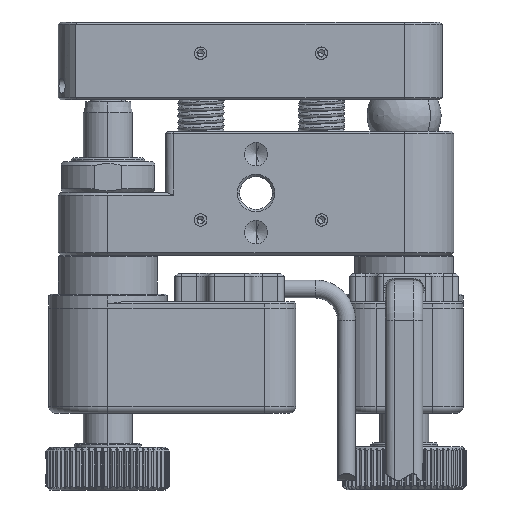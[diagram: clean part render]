
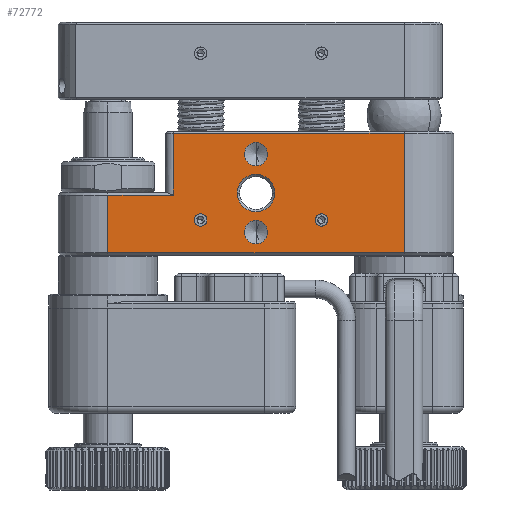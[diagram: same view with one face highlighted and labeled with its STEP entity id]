
A CAD part, left-side view. The second image highlights one B-rep face of the part: STEP entity #72772.
In plain terms, the highlighted planar face has unit normal (-1, 0, 0).
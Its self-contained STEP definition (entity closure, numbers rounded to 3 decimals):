
#1189 = ORIENTED_EDGE ( 'NONE', *, *, #4017, .T. ) ;
#2770 = CIRCLE ( 'NONE', #103500, 0.8 ) ;
#3532 = CARTESIAN_POINT ( 'NONE',  ( -25.4, 7.1, 5.3 ) ) ;
#4017 = EDGE_CURVE ( 'NONE', #76247, #22293, #68589, .T. ) ;
#5971 = AXIS2_PLACEMENT_3D ( 'NONE', #88839, #34053, #97976 ) ;
#6071 = CARTESIAN_POINT ( 'NONE',  ( -25.4, -8.4, 5.3 ) ) ;
#7074 = FACE_BOUND ( 'NONE', #56593, .T. ) ;
#7412 = VERTEX_POINT ( 'NONE', #10812 ) ;
#7661 = DIRECTION ( 'NONE',  ( -1., 0., 0. ) ) ;
#8185 = CARTESIAN_POINT ( 'NONE',  ( -25.4, 10.6, 8. ) ) ;
#8905 = PLANE ( 'NONE',  #106477 ) ;
#8951 = AXIS2_PLACEMENT_3D ( 'NONE', #76104, #21292, #85316 ) ;
#9287 = DIRECTION ( 'NONE',  ( 1., 0., 0. ) ) ;
#10812 = CARTESIAN_POINT ( 'NONE',  ( -25.4, 0., 14.45 ) ) ;
#11340 = CARTESIAN_POINT ( 'NONE',  ( -25.4, 0., 11.45 ) ) ;
#11591 = VERTEX_POINT ( 'NONE', #11340 ) ;
#11789 = VERTEX_POINT ( 'NONE', #3532 ) ;
#12539 = DIRECTION ( 'NONE',  ( 0., 1., 0. ) ) ;
#16105 = VERTEX_POINT ( 'NONE', #34476 ) ;
#16131 = VERTEX_POINT ( 'NONE', #33172 ) ;
#16261 = VERTEX_POINT ( 'NONE', #25962 ) ;
#16268 = LINE ( 'NONE', #31640, #110738 ) ;
#18143 = DIRECTION ( 'NONE',  ( 1., 0., 0. ) ) ;
#20414 = EDGE_LOOP ( 'NONE', ( #107586, #112395 ) ) ;
#21292 = DIRECTION ( 'NONE',  ( -1., 0., 0. ) ) ;
#22293 = VERTEX_POINT ( 'NONE', #60033 ) ;
#23327 = LINE ( 'NONE', #8185, #69169 ) ;
#23570 = EDGE_LOOP ( 'NONE', ( #104128, #103678 ) ) ;
#24526 = CARTESIAN_POINT ( 'NONE',  ( -25.4, -8.4, 4.5 ) ) ;
#24752 = CIRCLE ( 'NONE', #53094, 2.4 ) ;
#25962 = CARTESIAN_POINT ( 'NONE',  ( -25.4, -2.4, 7.95 ) ) ;
#26494 = DIRECTION ( 'NONE',  ( 0., 0., -1. ) ) ;
#26923 = CIRCLE ( 'NONE', #34798, 1.5 ) ;
#28131 = EDGE_CURVE ( 'NONE', #29530, #63894, #104681, .T. ) ;
#29004 = EDGE_LOOP ( 'NONE', ( #37699, #1189, #55786, #33358, #73541, #32900 ) ) ;
#29431 = CARTESIAN_POINT ( 'NONE',  ( -25.4, 10.6, 15.6 ) ) ;
#29530 = VERTEX_POINT ( 'NONE', #82305 ) ;
#29556 = CIRCLE ( 'NONE', #95409, 1.5 ) ;
#29623 = CIRCLE ( 'NONE', #73507, 0.8 ) ;
#30455 = CIRCLE ( 'NONE', #44627, 1.5 ) ;
#30558 = VERTEX_POINT ( 'NONE', #68543 ) ;
#30967 = CARTESIAN_POINT ( 'NONE',  ( -25.4, 0., 2.95 ) ) ;
#31355 = FACE_BOUND ( 'NONE', #69134, .T. ) ;
#31511 = AXIS2_PLACEMENT_3D ( 'NONE', #24526, #88564, #33762 ) ;
#31640 = CARTESIAN_POINT ( 'NONE',  ( -25.4, 19., 0. ) ) ;
#31710 = VECTOR ( 'NONE', #12539, 1000. ) ;
#32900 = ORIENTED_EDGE ( 'NONE', *, *, #28131, .T. ) ;
#33172 = CARTESIAN_POINT ( 'NONE',  ( -25.4, 0., 1.45 ) ) ;
#33358 = ORIENTED_EDGE ( 'NONE', *, *, #51689, .T. ) ;
#33738 = CIRCLE ( 'NONE', #8951, 0.8 ) ;
#33762 = DIRECTION ( 'NONE',  ( 0., 0., 1. ) ) ;
#33800 = CARTESIAN_POINT ( 'NONE',  ( -25.4, -19., 0. ) ) ;
#34053 = DIRECTION ( 'NONE',  ( 1., 0., 0. ) ) ;
#34476 = CARTESIAN_POINT ( 'NONE',  ( -25.4, -8.4, 3.7 ) ) ;
#34798 = AXIS2_PLACEMENT_3D ( 'NONE', #37756, #101750, #46966 ) ;
#36759 = EDGE_CURVE ( 'NONE', #11591, #7412, #26923, .T. ) ;
#37699 = ORIENTED_EDGE ( 'NONE', *, *, #99060, .T. ) ;
#37756 = CARTESIAN_POINT ( 'NONE',  ( -25.4, 0., 12.95 ) ) ;
#39732 = CARTESIAN_POINT ( 'NONE',  ( -25.4, 10.6, 15.6 ) ) ;
#40141 = DIRECTION ( 'NONE',  ( 0., 0., 1. ) ) ;
#42393 = VERTEX_POINT ( 'NONE', #55042 ) ;
#42966 = DIRECTION ( 'NONE',  ( 0., 0., 1. ) ) ;
#43436 = DIRECTION ( 'NONE',  ( 0., 1., 0. ) ) ;
#44627 = AXIS2_PLACEMENT_3D ( 'NONE', #30967, #94933, #40141 ) ;
#44695 = ORIENTED_EDGE ( 'NONE', *, *, #103176, .F. ) ;
#46966 = DIRECTION ( 'NONE',  ( 0., 0., 1. ) ) ;
#47671 = DIRECTION ( 'NONE',  ( -1., 0., 0. ) ) ;
#48461 = ORIENTED_EDGE ( 'NONE', *, *, #105787, .F. ) ;
#48521 = AXIS2_PLACEMENT_3D ( 'NONE', #102458, #47671, #111670 ) ;
#50298 = VERTEX_POINT ( 'NONE', #99206 ) ;
#51689 = EDGE_CURVE ( 'NONE', #42393, #68295, #90687, .T. ) ;
#51871 = DIRECTION ( 'NONE',  ( -1., 0., 0. ) ) ;
#51928 = CARTESIAN_POINT ( 'NONE',  ( -25.4, 19., 7.7 ) ) ;
#53094 = AXIS2_PLACEMENT_3D ( 'NONE', #72968, #18143, #82177 ) ;
#53195 = DIRECTION ( 'NONE',  ( -1., 0., 0. ) ) ;
#55042 = CARTESIAN_POINT ( 'NONE',  ( -25.4, 19., 0.3 ) ) ;
#55729 = FACE_BOUND ( 'NONE', #23570, .T. ) ;
#55786 = ORIENTED_EDGE ( 'NONE', *, *, #81492, .F. ) ;
#56593 = EDGE_LOOP ( 'NONE', ( #91614, #83610 ) ) ;
#60033 = CARTESIAN_POINT ( 'NONE',  ( -25.4, 19., 7.7 ) ) ;
#62434 = CARTESIAN_POINT ( 'NONE',  ( -25.4, -8.4, 4.5 ) ) ;
#62988 = CARTESIAN_POINT ( 'NONE',  ( -25.4, 10.6, 7.7 ) ) ;
#63000 = CARTESIAN_POINT ( 'NONE',  ( -25.4, 25.4, 0.3 ) ) ;
#63894 = VERTEX_POINT ( 'NONE', #29431 ) ;
#64086 = CARTESIAN_POINT ( 'NONE',  ( -25.4, 25.4, 15.9 ) ) ;
#65707 = VECTOR ( 'NONE', #43436, 1000. ) ;
#68295 = VERTEX_POINT ( 'NONE', #103774 ) ;
#68543 = CARTESIAN_POINT ( 'NONE',  ( -25.4, 7.1, 3.7 ) ) ;
#68589 = LINE ( 'NONE', #51928, #65707 ) ;
#68898 = EDGE_CURVE ( 'NONE', #50298, #16131, #91360, .T. ) ;
#69134 = EDGE_LOOP ( 'NONE', ( #110929, #116208 ) ) ;
#69169 = VECTOR ( 'NONE', #26494, 1000. ) ;
#71593 = DIRECTION ( 'NONE',  ( 0., 0., 1. ) ) ;
#72772 = ADVANCED_FACE ( 'NONE', ( #55729, #31355, #82872, #7074, #101416, #77121 ), #8905, .F. ) ;
#72968 = CARTESIAN_POINT ( 'NONE',  ( -25.4, 0., 7.95 ) ) ;
#73234 = DIRECTION ( 'NONE',  ( 0., 1., 0. ) ) ;
#73507 = AXIS2_PLACEMENT_3D ( 'NONE', #62434, #7661, #71593 ) ;
#73541 = ORIENTED_EDGE ( 'NONE', *, *, #78511, .T. ) ;
#76104 = CARTESIAN_POINT ( 'NONE',  ( -25.4, 7.1, 4.5 ) ) ;
#76247 = VERTEX_POINT ( 'NONE', #62988 ) ;
#76792 = EDGE_CURVE ( 'NONE', #16261, #111300, #95671, .T. ) ;
#76983 = EDGE_LOOP ( 'NONE', ( #48461, #44695 ) ) ;
#77121 = FACE_OUTER_BOUND ( 'NONE', #29004, .T. ) ;
#78511 = EDGE_CURVE ( 'NONE', #68295, #29530, #79469, .T. ) ;
#79469 = LINE ( 'NONE', #33800, #103723 ) ;
#81492 = EDGE_CURVE ( 'NONE', #42393, #22293, #16268, .T. ) ;
#82177 = DIRECTION ( 'NONE',  ( 0., 1., 0. ) ) ;
#82305 = CARTESIAN_POINT ( 'NONE',  ( -25.4, -19., 15.6 ) ) ;
#82872 = FACE_BOUND ( 'NONE', #20414, .T. ) ;
#83610 = ORIENTED_EDGE ( 'NONE', *, *, #114297, .F. ) ;
#84055 = EDGE_CURVE ( 'NONE', #117811, #16105, #29623, .T. ) ;
#85316 = DIRECTION ( 'NONE',  ( 0., 0., 1. ) ) ;
#85835 = CARTESIAN_POINT ( 'NONE',  ( -25.4, 2.4, 7.95 ) ) ;
#88564 = DIRECTION ( 'NONE',  ( -1., 0., 0. ) ) ;
#88839 = CARTESIAN_POINT ( 'NONE',  ( -25.4, 0., 7.95 ) ) ;
#90687 = LINE ( 'NONE', #63000, #115016 ) ;
#91360 = CIRCLE ( 'NONE', #48521, 1.5 ) ;
#91614 = ORIENTED_EDGE ( 'NONE', *, *, #84055, .F. ) ;
#94933 = DIRECTION ( 'NONE',  ( -1., 0., 0. ) ) ;
#95409 = AXIS2_PLACEMENT_3D ( 'NONE', #106632, #51871, #115849 ) ;
#95671 = CIRCLE ( 'NONE', #5971, 2.4 ) ;
#97917 = CIRCLE ( 'NONE', #31511, 0.8 ) ;
#97976 = DIRECTION ( 'NONE',  ( 0., 1., 0. ) ) ;
#99060 = EDGE_CURVE ( 'NONE', #63894, #76247, #23327, .T. ) ;
#99206 = CARTESIAN_POINT ( 'NONE',  ( -25.4, 0., 4.45 ) ) ;
#101416 = FACE_BOUND ( 'NONE', #76983, .T. ) ;
#101750 = DIRECTION ( 'NONE',  ( -1., 0., 0. ) ) ;
#102458 = CARTESIAN_POINT ( 'NONE',  ( -25.4, 0., 2.95 ) ) ;
#103176 = EDGE_CURVE ( 'NONE', #30558, #11789, #2770, .T. ) ;
#103500 = AXIS2_PLACEMENT_3D ( 'NONE', #107930, #53195, #117147 ) ;
#103678 = ORIENTED_EDGE ( 'NONE', *, *, #109566, .F. ) ;
#103723 = VECTOR ( 'NONE', #42966, 1000. ) ;
#103774 = CARTESIAN_POINT ( 'NONE',  ( -25.4, -19., 0.3 ) ) ;
#104128 = ORIENTED_EDGE ( 'NONE', *, *, #68898, .F. ) ;
#104681 = LINE ( 'NONE', #39732, #31710 ) ;
#105200 = DIRECTION ( 'NONE',  ( 0., 0., 1. ) ) ;
#105299 = EDGE_CURVE ( 'NONE', #7412, #11591, #29556, .T. ) ;
#105787 = EDGE_CURVE ( 'NONE', #11789, #30558, #33738, .T. ) ;
#106477 = AXIS2_PLACEMENT_3D ( 'NONE', #64086, #9287, #73234 ) ;
#106632 = CARTESIAN_POINT ( 'NONE',  ( -25.4, 0., 12.95 ) ) ;
#107586 = ORIENTED_EDGE ( 'NONE', *, *, #76792, .T. ) ;
#107930 = CARTESIAN_POINT ( 'NONE',  ( -25.4, 7.1, 4.5 ) ) ;
#109566 = EDGE_CURVE ( 'NONE', #16131, #50298, #30455, .T. ) ;
#110738 = VECTOR ( 'NONE', #105200, 1000. ) ;
#110929 = ORIENTED_EDGE ( 'NONE', *, *, #105299, .F. ) ;
#111300 = VERTEX_POINT ( 'NONE', #85835 ) ;
#111670 = DIRECTION ( 'NONE',  ( 0., 0., 1. ) ) ;
#112395 = ORIENTED_EDGE ( 'NONE', *, *, #115079, .T. ) ;
#114297 = EDGE_CURVE ( 'NONE', #16105, #117811, #97917, .T. ) ;
#115016 = VECTOR ( 'NONE', #117751, 1000. ) ;
#115079 = EDGE_CURVE ( 'NONE', #111300, #16261, #24752, .T. ) ;
#115849 = DIRECTION ( 'NONE',  ( 0., 0., 1. ) ) ;
#116208 = ORIENTED_EDGE ( 'NONE', *, *, #36759, .F. ) ;
#117147 = DIRECTION ( 'NONE',  ( 0., 0., 1. ) ) ;
#117751 = DIRECTION ( 'NONE',  ( 0., -1., 0. ) ) ;
#117811 = VERTEX_POINT ( 'NONE', #6071 ) ;
